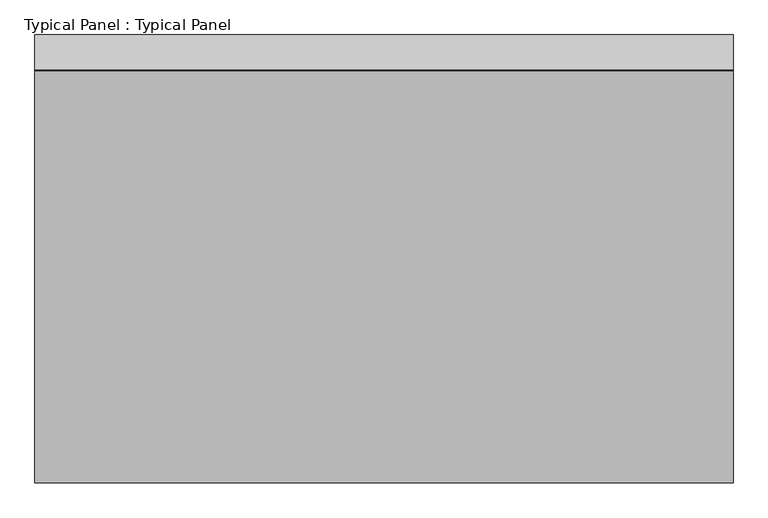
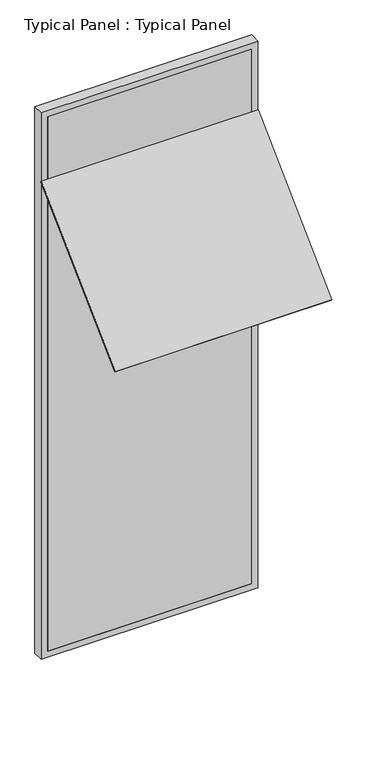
"""IFC4 building model written with IfcOpenShell, lengths in millimetres: plate geometry, Typical Panel : Typical Panel."""

from ifc_helpers import new_model, si_unit, frame, origin, place, context, project, spatial, polyline, outline, extrude, source, transform, mapped, element, save


def typical_panel_typical_panel_1d00d27b(model_context):
    return source(origin(), model_context, "Body", "SweptSolid", [
        extrude(outline(polyline([(0.0, -1230.0), (0.0, 0.0), (1500.0, 0.0), (1500.0, -1230.0), (0.0, -1230.0)])), frame((750.0, -882.8413707, 2638.3768063), z_axis=(0.0, -0.6946583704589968, 0.7193398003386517), x_axis=(-1.0, 0.0, 0.0)), (0.0, 0.0, 1.0), 10.0),
        extrude(outline(polyline([(0.0, -750.0), (0.0, 750.0), (4000.0, 750.0), (4000.0, -750.0), (0.0, -750.0)]), holes=[polyline([(45.0, 705.0), (45.0, -705.0), (3955.0, -705.0), (3955.0, 705.0), (45.0, 705.0)])]), frame((0.0, -1.5797986, 0.0), z_axis=(0.0, 1.0, 0.0), x_axis=(0.0, 0.0, 1.0)), (0.0, 0.0, 1.0), 75.0),
        extrude(outline(polyline([(705.0, -1.5797986), (-705.0, -1.5797986), (-705.0, 13.4202014), (705.0, 13.4202014), (705.0, -1.5797986)])), frame((0.0, 0.0, 45.0), z_axis=(0.0, 0.0, 1.0), x_axis=(1.0, 0.0, 0.0)), (0.0, 0.0, 1.0), 3910.0),
    ])


if __name__ == "__main__":
    model = new_model("IFC4")
    model_context = context("Model", 3, world=origin())
    ifc_project = project(units=[si_unit("LENGTHUNIT", "METRE", prefix="MILLI")], contexts=[model_context])
    site = spatial("IfcSite", under=ifc_project)
    building = spatial("IfcBuilding", under=site)
    placement = place(None, origin())
    typical_panel_typical_panel_shape = typical_panel_typical_panel_1d00d27b(model_context)
    element("IfcPlate", 1, ObjectType="Typical Panel : Typical Panel", at=placement, inside=building, context=model_context, shape_type="MappedRepresentation", body=[
        mapped(typical_panel_typical_panel_shape, transform((0.0, 0.0, 0.0), x_axis=(1.0, 0.0, 0.0), y_axis=(0.0, 1.0, 0.0), z_axis=(0.0, 0.0, 1.0))),
    ])
    save(model, "model.ifc")
